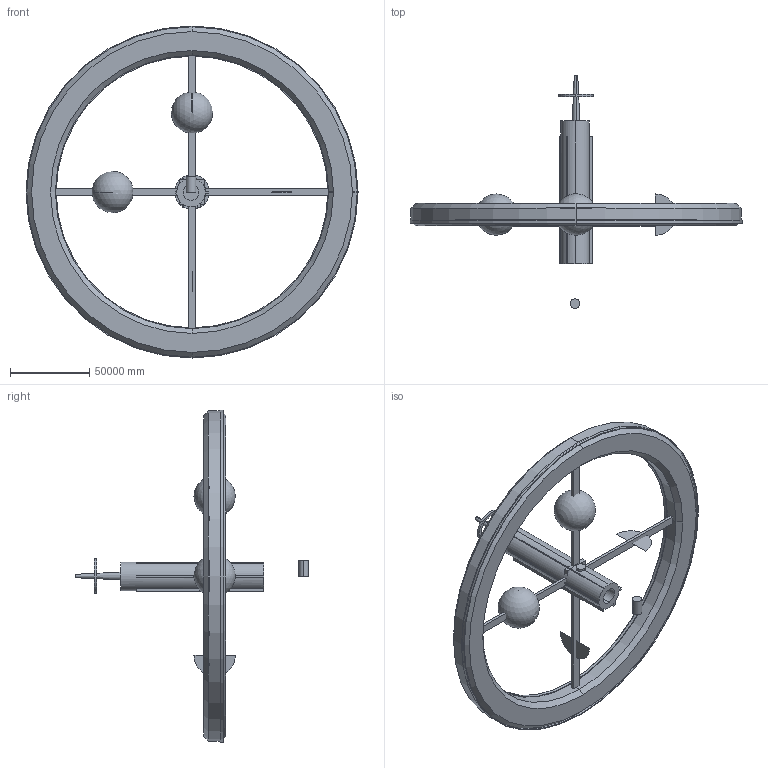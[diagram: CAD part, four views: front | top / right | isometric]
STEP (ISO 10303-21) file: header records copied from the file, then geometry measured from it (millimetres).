
FILE_DESCRIPTION (( 'STEP AP203' ), '1' );
FILE_NAME ('GEO_Orbital_Terminal_Station_Complete.STEP', '2026-10-29T18:15:02', ( 'user' ), ( '' ), 'SwSTEP 2.0', 'SolidWorks 2026', '' );
FILE_SCHEMA (( 'CONFIG_CONTROL_DESIGN' ));
Length unit declared in the file: inch
Products named in the file (8): GEO_04_Geodesic_Biosphere_Spheres; GEO_05_Mega_Solar_Photovoltaic_Wings; GEO_06_Communications_Spire_And_RCS_Mast; GEO_03_Structural_Spoke_Corridors; GEO_02_Pressurized_Torus_Hab_Ring; GEO_01_Central_Transit_Core; GEO_07_Continuous_Tether_Ribbon; GEO_Orbital_Terminal_Station_Complete
Assembly tree (6 placements, depth 2):
  GEO_07_Continuous_Tether_Ribbon
  GEO_Orbital_Terminal_Station_Complete
    GEO_01_Central_Transit_Core
    GEO_02_Pressurized_Torus_Hab_Ring
    GEO_03_Structural_Spoke_Corridors
    GEO_04_Geodesic_Biosphere_Spheres
    GEO_05_Mega_Solar_Photovoltaic_Wings
    GEO_06_Communications_Spire_And_RCS_Mast
Bounding box: 209000 x 146500 x 209000 mm (x, y, z)
Volume: 71692327856402.8 mm3; surface area: 93494426711.3 mm2
Topology: 16 solids, 16 shells, 154 faces, 356 edges, 232 vertices
Faces by surface type: plane 85, cylinder 38, cone 27, sphere 4
Entity records: 5868 total; most frequent: CARTESIAN_POINT 1482, DIRECTION 784, ORIENTED_EDGE 700, EDGE_CURVE 350, AXIS2_PLACEMENT_3D 279, VERTEX_POINT 228, LINE 226, VECTOR 226
